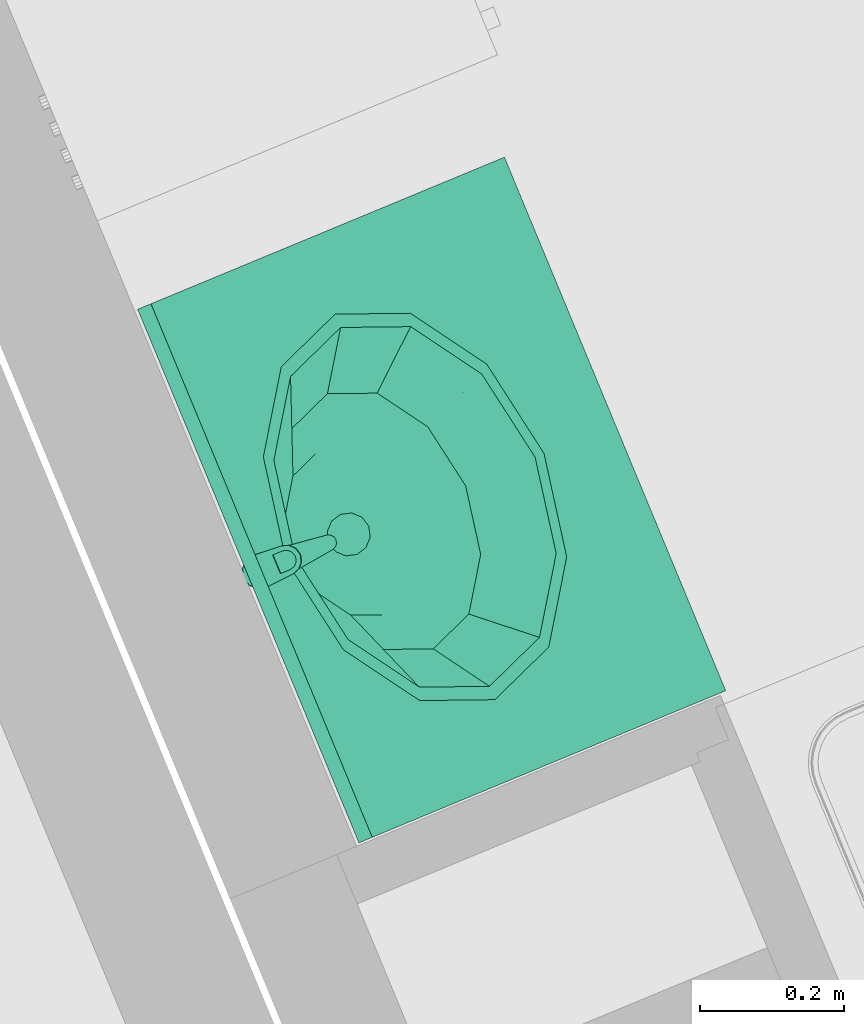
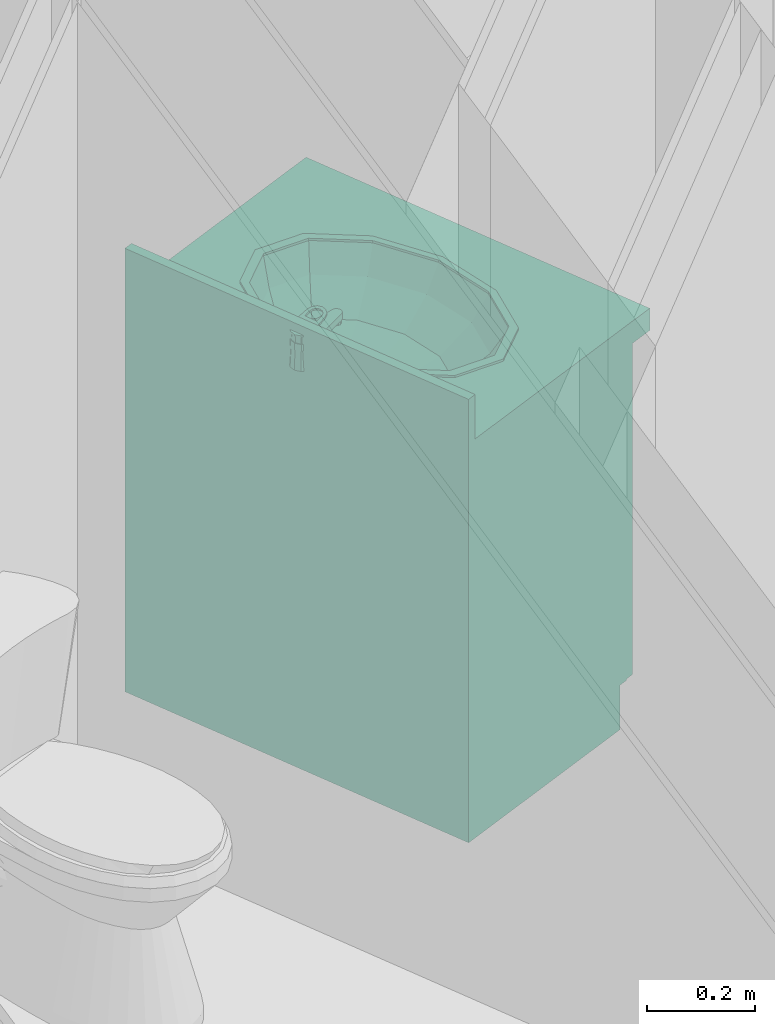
# One storey, part 68 of 91: 1 flow terminal.
"""IFC2X3 building model written with IfcOpenShell, lengths in metres."""

from ifc_helpers import new_model, entity, si_unit, converted_unit, derived_unit, money_unit, direction, frame, origin_with_axes, place, context, subcontext, project, spatial, open_shell, faceted_brep, surface_model, source, transform, mapped, type_object, element, save


model = new_model("IFC2X3")

# Units and contexts
model_context = context("Model", 3, precision=1e-05, world=origin_with_axes(), true_north=direction((0.0, 1.0)))
body_context = subcontext(model_context, "Body", "Model", "MODEL_VIEW")
ifc_project = project(units=[si_unit("LENGTHUNIT", "METRE"), si_unit("AREAUNIT", "SQUARE_METRE"), si_unit("VOLUMEUNIT", "CUBIC_METRE"), converted_unit("PLANEANGLEUNIT", "DEGREE", entity("IfcPlaneAngleMeasure", 0.0174532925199), si_unit("PLANEANGLEUNIT", "RADIAN"), dimensions=[0, 0, 0, 0, 0, 0, 0]), si_unit("SOLIDANGLEUNIT", "STERADIAN"), money_unit("EUR"), converted_unit("TIMEUNIT", "Year", entity("IfcTimeMeasure", 31556926.0), si_unit("TIMEUNIT", "SECOND"), dimensions=[0, 0, 1, 0, 0, 0, 0]), si_unit("MASSUNIT", "GRAM", prefix="KILO"), si_unit("THERMODYNAMICTEMPERATUREUNIT", "DEGREE_CELSIUS"), si_unit("LUMINOUSINTENSITYUNIT", "LUMEN"), si_unit("ENERGYUNIT", "JOULE", prefix="MEGA"), derived_unit("THERMALCONDUCTANCEUNIT", [(si_unit("POWERUNIT", "WATT"), 1), (si_unit("LENGTHUNIT", "METRE"), -1), (si_unit("THERMODYNAMICTEMPERATUREUNIT", "KELVIN"), -1)]), derived_unit("SPECIFICHEATCAPACITYUNIT", [(si_unit("ENERGYUNIT", "JOULE"), 1), (si_unit("MASSUNIT", "GRAM", prefix="KILO"), -1), (si_unit("THERMODYNAMICTEMPERATUREUNIT", "KELVIN"), -1)]), derived_unit("MASSDENSITYUNIT", [(si_unit("MASSUNIT", "GRAM", prefix="KILO"), 1), (si_unit("VOLUMEUNIT", "CUBIC_METRE"), -1)])], contexts=[model_context])

# Site, building, storey
site_placement = place(None, origin_with_axes())
site = spatial("IfcSite", under=ifc_project, at=site_placement, Name="Site", CompositionType="ELEMENT")
building_placement = place(site_placement, origin_with_axes())
building = spatial("IfcBuilding", under=site, at=building_placement, Name="Bâtiment", CompositionType="ELEMENT")
storey_placement = place(building_placement, frame((0.0, 0.0, 5.44), z_axis=(0.0, 0.0, 1.0), x_axis=(1.0, 0.0, 0.0)))
storey = spatial("IfcBuildingStorey", under=building, at=storey_placement, Name="R+2", CompositionType="ELEMENT", Elevation=5.44)

# Flow terminal
sanitary_terminal_type = type_object("IfcSanitaryTerminalType", Name="Lavabo sur meuble 23", PredefinedType="NOTDEFINED")
shared_shape = source(origin_with_axes(), body_context, "Body", "SurfaceModel", [
    faceted_brep([(0.0, 0.09, 0.0), (0.8, 0.09, 0.0), (0.8, 0.09, 0.1), (0.0, 0.09, 0.1), (0.0, 0.55, 0.0), (0.8, 0.55, 0.0), (0.8, 0.55, 0.1), (0.0, 0.55, 0.1)], [[[0, 1, 2, 3]], [[0, 4, 5, 1]], [[1, 5, 6, 2]], [[3, 2, 6, 7]], [[4, 0, 3, 7]], [[5, 4, 7, 6]]]),
    faceted_brep([(0.0, 0.07, 0.1), (0.02, 0.07, 0.1), (0.02, 0.07, 0.12), (0.0, 0.07, 0.12), (0.0, 0.55, 0.1), (0.02, 0.55, 0.1), (0.78, 0.55, 0.1), (0.8, 0.55, 0.1), (0.8, 0.07, 0.1), (0.78, 0.07, 0.1), (0.78, 0.07, 0.12), (0.8, 0.07, 0.12), (0.8, 0.55, 0.12), (0.78, 0.55, 0.12), (0.02, 0.55, 0.12), (0.0, 0.55, 0.12)], [[[0, 1, 2, 3]], [[0, 4, 5, 6, 7, 8, 9, 1]], [[1, 9, 10, 2]], [[3, 2, 10, 11, 12, 13, 14, 15]], [[4, 0, 3, 15]], [[5, 4, 15, 14]], [[6, 5, 14, 13]], [[7, 6, 13, 12]], [[8, 7, 12, 11]], [[9, 8, 11, 10]]]),
    faceted_brep([(0.0, 0.07, 0.12), (0.02, 0.07, 0.12), (0.02, 0.07, 0.85), (0.0, 0.07, 0.85), (0.0, 0.55, 0.12), (0.8, 0.55, 0.12), (0.8, 0.07, 0.12), (0.78, 0.07, 0.12), (0.78, 0.53, 0.12), (0.02, 0.53, 0.12), (0.02, 0.53, 0.85), (0.78, 0.53, 0.85), (0.78, 0.07, 0.85), (0.8, 0.07, 0.85), (0.8, 0.55, 0.85), (0.0, 0.55, 0.85)], [[[0, 1, 2, 3]], [[0, 4, 5, 6, 7, 8, 9, 1]], [[1, 9, 10, 2]], [[3, 2, 10, 11, 12, 13, 14, 15]], [[4, 0, 3, 15]], [[5, 4, 15, 14]], [[6, 5, 14, 13]], [[7, 6, 13, 12]], [[8, 7, 12, 11]], [[9, 8, 11, 10]]]),
    faceted_brep([(0.78, 0.07, 0.323333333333), (0.78, 0.53, 0.323333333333), (0.78, 0.53, 0.343333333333), (0.78, 0.07, 0.343333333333), (0.02, 0.07, 0.323333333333), (0.02, 0.53, 0.323333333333), (0.02, 0.53, 0.343333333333), (0.02, 0.07, 0.343333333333)], [[[0, 1, 2, 3]], [[0, 4, 5, 1]], [[1, 5, 6, 2]], [[3, 2, 6, 7]], [[4, 0, 3, 7]], [[5, 4, 7, 6]]]),
    faceted_brep([(0.78, 0.07, 0.566666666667), (0.78, 0.53, 0.566666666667), (0.78, 0.53, 0.586666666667), (0.78, 0.07, 0.586666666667), (0.02, 0.07, 0.566666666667), (0.02, 0.53, 0.566666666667), (0.02, 0.53, 0.586666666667), (0.02, 0.07, 0.586666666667)], [[[0, 1, 2, 3]], [[0, 4, 5, 1]], [[1, 5, 6, 2]], [[3, 2, 6, 7]], [[4, 0, 3, 7]], [[5, 4, 7, 6]]]),
    faceted_brep([(0.0, 0.55, 0.85), (0.8, 0.55, 0.85), (0.8, 0.0, 0.85), (0.0, 0.0, 0.85), (0.535, 0.144115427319, 0.85), (0.633826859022, 0.21, 0.85), (0.67, 0.3, 0.85), (0.633826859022, 0.39, 0.85), (0.535, 0.455884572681, 0.85), (0.4, 0.48, 0.85), (0.265, 0.455884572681, 0.85), (0.166173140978, 0.39, 0.85), (0.13, 0.3, 0.85), (0.166173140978, 0.21, 0.85), (0.265, 0.144115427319, 0.85), (0.4, 0.12, 0.85), (0.0, 0.55, 0.9), (0.8, 0.55, 0.9), (0.8, 0.0, 0.9), (0.0, 0.0, 0.9), (0.535, 0.144115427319, 0.9), (0.633826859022, 0.21, 0.9), (0.67, 0.3, 0.9), (0.633826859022, 0.39, 0.9), (0.535, 0.455884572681, 0.9), (0.4, 0.48, 0.9), (0.265, 0.455884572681, 0.9), (0.166173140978, 0.39, 0.9), (0.13, 0.3, 0.9), (0.166173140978, 0.21, 0.9), (0.265, 0.144115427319, 0.9), (0.4, 0.12, 0.9)], [[[0, 1, 2, 3], [4, 5, 6, 7, 8, 9, 10, 11, 12, 13, 14, 15]], [[0, 16, 17, 1]], [[1, 17, 18, 2]], [[2, 18, 19, 3]], [[3, 19, 16, 0]], [[20, 21, 5, 4]], [[21, 22, 6, 5]], [[22, 23, 7, 6]], [[23, 24, 8, 7]], [[24, 25, 9, 8]], [[25, 26, 10, 9]], [[26, 27, 11, 10]], [[27, 28, 12, 11]], [[28, 29, 13, 12]], [[29, 30, 14, 13]], [[30, 31, 15, 14]], [[31, 20, 4, 15]], [[18, 17, 16, 19], [24, 23, 22, 21, 20, 31, 30, 29, 28, 27, 26, 25]]]),
    faceted_brep([(0.0, 0.53, 0.9), (0.8, 0.53, 0.9), (0.8, 0.53, 1.0), (0.0, 0.53, 1.0), (0.0, 0.55, 0.9), (0.8, 0.55, 0.9), (0.8, 0.55, 1.0), (0.0, 0.55, 1.0)], [[[0, 1, 2, 3]], [[0, 4, 5, 1]], [[1, 5, 6, 2]], [[3, 2, 6, 7]], [[4, 0, 3, 7]], [[5, 4, 7, 6]]]),
    faceted_brep([(0.689, 0.3, 0.905), (0.689, 0.3, 0.9), (0.650281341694, 0.396691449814, 0.9), (0.650281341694, 0.396691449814, 0.905), (0.650281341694, 0.203308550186, 0.905), (0.650281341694, 0.203308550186, 0.9), (0.5445, 0.132525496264, 0.9), (0.4, 0.106617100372, 0.9), (0.2555, 0.132525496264, 0.9), (0.149718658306, 0.203308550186, 0.9), (0.111, 0.3, 0.9), (0.149718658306, 0.396691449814, 0.9), (0.2555, 0.467474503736, 0.9), (0.4, 0.493382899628, 0.9), (0.5445, 0.467474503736, 0.9), (0.669, 0.3, 0.9), (0.632960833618, 0.39, 0.9), (0.5345, 0.455884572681, 0.9), (0.4, 0.48, 0.9), (0.2655, 0.455884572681, 0.9), (0.167039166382, 0.39, 0.9), (0.131, 0.3, 0.9), (0.167039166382, 0.21, 0.9), (0.2655, 0.144115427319, 0.9), (0.4, 0.12, 0.9), (0.5345, 0.144115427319, 0.9), (0.632960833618, 0.21, 0.9), (0.5445, 0.467474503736, 0.905), (0.4, 0.493382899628, 0.905), (0.2555, 0.467474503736, 0.905), (0.149718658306, 0.396691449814, 0.905), (0.111, 0.3, 0.905), (0.149718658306, 0.203308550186, 0.905), (0.2555, 0.132525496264, 0.905), (0.4, 0.106617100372, 0.905), (0.5445, 0.132525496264, 0.905), (0.669, 0.3, 0.905), (0.632960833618, 0.21, 0.905), (0.5345, 0.144115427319, 0.905), (0.4, 0.12, 0.905), (0.2655, 0.144115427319, 0.905), (0.167039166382, 0.21, 0.905), (0.131, 0.3, 0.905), (0.167039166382, 0.39, 0.905), (0.2655, 0.455884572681, 0.905), (0.4, 0.48, 0.905), (0.5345, 0.455884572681, 0.905), (0.632960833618, 0.39, 0.905)], [[[0, 1, 2, 3]], [[4, 5, 1, 0]], [[1, 5, 6, 7, 8, 9, 10, 11, 12, 13, 14, 2], [15, 16, 17, 18, 19, 20, 21, 22, 23, 24, 25, 26]], [[3, 2, 14, 27]], [[0, 3, 27, 28, 29, 30, 31, 32, 33, 34, 35, 4], [36, 37, 38, 39, 40, 41, 42, 43, 44, 45, 46, 47]], [[35, 6, 5, 4]], [[34, 7, 6, 35]], [[33, 8, 7, 34]], [[32, 9, 8, 33]], [[31, 10, 9, 32]], [[30, 11, 10, 31]], [[29, 12, 11, 30]], [[28, 13, 12, 29]], [[27, 14, 13, 28]], [[47, 16, 15, 36]], [[46, 17, 16, 47]], [[45, 18, 17, 46]], [[44, 19, 18, 45]], [[43, 20, 19, 44]], [[42, 21, 20, 43]], [[41, 22, 21, 42]], [[40, 23, 22, 41]], [[39, 24, 23, 40]], [[38, 25, 24, 39]], [[37, 26, 25, 38]], [[36, 15, 26, 37]]]),
    surface_model("IfcShellBasedSurfaceModel", [(0.4, 0.48, 0.9), (0.4, 0.48, 0.848), (0.52105, 0.458296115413, 0.848), (0.5345, 0.455884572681, 0.9), (0.2655, 0.455884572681, 0.9), (0.27895, 0.458296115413, 0.848), (0.609664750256, 0.399, 0.848), (0.632960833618, 0.39, 0.9), (0.167039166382, 0.39, 0.9), (0.190335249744, 0.399, 0.848), (0.6421, 0.318, 0.848), (0.669, 0.3, 0.9), (0.131, 0.3, 0.9), (0.1579, 0.318, 0.848), (0.609664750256, 0.237, 0.848), (0.632960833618, 0.21, 0.9), (0.167039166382, 0.21, 0.9), (0.190335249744, 0.237, 0.848), (0.52105, 0.177703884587, 0.848), (0.5345, 0.144115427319, 0.9), (0.2655, 0.144115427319, 0.9), (0.27895, 0.177703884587, 0.848), (0.4, 0.156, 0.848), (0.4, 0.12, 0.9)], [open_shell([[[0, 1, 2, 3]], [[4, 5, 1, 0]], [[3, 2, 6, 7]], [[8, 9, 5, 4]], [[7, 6, 10, 11]], [[12, 13, 9, 8]], [[11, 10, 14, 15]], [[16, 17, 13, 12]], [[15, 14, 18, 19]], [[20, 21, 17, 16]], [[19, 18, 22, 23]], [[23, 22, 21, 20]]])]),
    surface_model("IfcShellBasedSurfaceModel", [(0.4, 0.48, 0.848), (0.4, 0.48, 0.796), (0.4956295, 0.462853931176, 0.796), (0.52105, 0.458296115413, 0.848), (0.27895, 0.458296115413, 0.848), (0.3043705, 0.462853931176, 0.796), (0.565635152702, 0.41601, 0.796), (0.609664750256, 0.399, 0.848), (0.190335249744, 0.399, 0.848), (0.234364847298, 0.41601, 0.796), (0.591259, 0.35202, 0.796), (0.6421, 0.318, 0.848), (0.1579, 0.318, 0.848), (0.208741, 0.35202, 0.796), (0.565635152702, 0.28803, 0.796), (0.609664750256, 0.237, 0.848), (0.190335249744, 0.237, 0.848), (0.234364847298, 0.28803, 0.796), (0.4956295, 0.241186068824, 0.796), (0.52105, 0.177703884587, 0.848), (0.27895, 0.177703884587, 0.848), (0.3043705, 0.241186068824, 0.796), (0.4, 0.22404, 0.796), (0.4, 0.156, 0.848)], [open_shell([[[0, 1, 2, 3]], [[4, 5, 1, 0]], [[3, 2, 6, 7]], [[8, 9, 5, 4]], [[7, 6, 10, 11]], [[12, 13, 9, 8]], [[11, 10, 14, 15]], [[16, 17, 13, 12]], [[15, 14, 18, 19]], [[20, 21, 17, 16]], [[19, 18, 22, 23]], [[23, 22, 21, 20]]])]),
    surface_model("IfcShellBasedSurfaceModel", [(0.4, 0.48, 0.796), (0.4, 0.48, 0.77), (0.460246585, 0.469197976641, 0.77), (0.4956295, 0.462853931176, 0.796), (0.3043705, 0.462853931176, 0.796), (0.339753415, 0.469197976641, 0.77), (0.504350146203, 0.4396863, 0.77), (0.565635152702, 0.41601, 0.796), (0.234364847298, 0.41601, 0.796), (0.295649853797, 0.4396863, 0.77), (0.52049317, 0.3993726, 0.77), (0.591259, 0.35202, 0.796), (0.208741, 0.35202, 0.796), (0.27950683, 0.3993726, 0.77), (0.504350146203, 0.3590589, 0.77), (0.565635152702, 0.28803, 0.796), (0.234364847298, 0.28803, 0.796), (0.295649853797, 0.3590589, 0.77), (0.460246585, 0.329547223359, 0.77), (0.4956295, 0.241186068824, 0.796), (0.3043705, 0.241186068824, 0.796), (0.339753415, 0.329547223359, 0.77), (0.4, 0.3187452, 0.77), (0.4, 0.22404, 0.796)], [open_shell([[[0, 1, 2, 3]], [[4, 5, 1, 0]], [[3, 2, 6, 7]], [[8, 9, 5, 4]], [[7, 6, 10, 11]], [[12, 13, 9, 8]], [[11, 10, 14, 15]], [[16, 17, 13, 12]], [[15, 14, 18, 19]], [[20, 21, 17, 16]], [[19, 18, 22, 23]], [[23, 22, 21, 20]]])]),
    surface_model("IfcShellBasedSurfaceModel", [(0.4, 0.48, 0.77), (0.415, 0.425353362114, 0.763), (0.460246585, 0.469197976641, 0.77), (0.4, 0.4293726, 0.763), (0.425980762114, 0.4143726, 0.763), (0.339753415, 0.469197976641, 0.77), (0.504350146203, 0.4396863, 0.77), (0.385, 0.425353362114, 0.763), (0.43, 0.3993726, 0.763), (0.295649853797, 0.4396863, 0.77), (0.52049317, 0.3993726, 0.77), (0.374019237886, 0.4143726, 0.763), (0.425980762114, 0.3843726, 0.763), (0.27950683, 0.3993726, 0.77), (0.504350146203, 0.3590589, 0.77), (0.37, 0.3993726, 0.763), (0.415, 0.373391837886, 0.763), (0.295649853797, 0.3590589, 0.77), (0.460246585, 0.329547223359, 0.77), (0.374019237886, 0.3843726, 0.763), (0.4, 0.3693726, 0.763), (0.339753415, 0.329547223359, 0.77), (0.4, 0.3187452, 0.77), (0.385, 0.373391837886, 0.763)], [open_shell([[[0, 1, 2]], [[0, 3, 1]], [[2, 1, 4]], [[5, 3, 0]], [[2, 4, 6]], [[5, 7, 3]], [[6, 4, 8]], [[9, 7, 5]], [[6, 8, 10]], [[9, 11, 7]], [[10, 8, 12]], [[13, 11, 9]], [[10, 12, 14]], [[13, 15, 11]], [[14, 12, 16]], [[17, 15, 13]], [[14, 16, 18]], [[17, 19, 15]], [[18, 16, 20]], [[21, 19, 17]], [[18, 20, 22]], [[21, 23, 19]], [[22, 20, 23]], [[22, 23, 21]]])]),
    surface_model("IfcShellBasedSurfaceModel", [(0.43, 0.3993726, 0.763), (0.43, 0.3993726, 0.758), (0.425980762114, 0.4143726, 0.758), (0.425980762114, 0.4143726, 0.763), (0.425980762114, 0.3843726, 0.763), (0.425980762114, 0.3843726, 0.758), (0.415, 0.373391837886, 0.758), (0.4, 0.3693726, 0.758), (0.385, 0.373391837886, 0.758), (0.374019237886, 0.3843726, 0.758), (0.37, 0.3993726, 0.758), (0.374019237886, 0.4143726, 0.758), (0.385, 0.425353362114, 0.758), (0.4, 0.4293726, 0.758), (0.415, 0.425353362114, 0.758), (0.415, 0.425353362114, 0.763), (0.415, 0.373391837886, 0.763), (0.4, 0.3693726, 0.763), (0.385, 0.373391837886, 0.763), (0.374019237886, 0.3843726, 0.763), (0.37, 0.3993726, 0.763), (0.374019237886, 0.4143726, 0.763), (0.385, 0.425353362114, 0.763), (0.4, 0.4293726, 0.763)], [open_shell([[[0, 1, 2, 3]], [[4, 5, 1, 0]], [[1, 5, 6, 7, 8, 9, 10, 11, 12, 13, 14, 2]], [[3, 2, 14, 15]], [[16, 6, 5, 4]], [[17, 7, 6, 16]], [[18, 8, 7, 17]], [[19, 9, 8, 18]], [[20, 10, 9, 19]], [[21, 11, 10, 20]], [[22, 12, 11, 21]], [[23, 13, 12, 22]], [[15, 14, 13, 23]]])]),
    faceted_brep([(0.4125, 0.554150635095, 0.9), (0.4, 0.5575, 0.9), (0.4, 0.553701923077, 0.975961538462), (0.410587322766, 0.550837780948, 0.976507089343), (0.421650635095, 0.545, 0.9), (0.425, 0.5325, 0.9), (0.421650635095, 0.52, 0.9), (0.4125, 0.510849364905, 0.9), (0.4, 0.5075, 0.9), (0.3875, 0.510849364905, 0.9), (0.378349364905, 0.52, 0.9), (0.375, 0.5325, 0.9), (0.378349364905, 0.545, 0.9), (0.3875, 0.554150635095, 0.9), (0.389412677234, 0.550837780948, 0.976507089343), (0.381726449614, 0.543050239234, 0.977990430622), (0.379, 0.5325, 0.98), (0.381899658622, 0.522049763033, 0.981990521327), (0.389585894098, 0.514462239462, 0.983435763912), (0.4, 0.511698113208, 0.983962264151), (0.410414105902, 0.514462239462, 0.983435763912), (0.418100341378, 0.522049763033, 0.981990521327), (0.421, 0.5325, 0.98), (0.418273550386, 0.543050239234, 0.977990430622)], [[[0, 1, 2, 3]], [[0, 4, 5, 6, 7, 8, 9, 10, 11, 12, 13, 1]], [[1, 13, 14, 2]], [[3, 2, 14, 15, 16, 17, 18, 19, 20, 21, 22, 23]], [[4, 0, 3, 23]], [[5, 4, 23, 22]], [[6, 5, 22, 21]], [[7, 6, 21, 20]], [[8, 7, 20, 19]], [[9, 8, 19, 18]], [[10, 9, 18, 17]], [[11, 10, 17, 16]], [[12, 11, 16, 15]], [[13, 12, 15, 14]]]),
    faceted_brep([(0.409, 0.4295, 0.935), (0.407794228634, 0.434, 0.935), (0.407794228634, 0.434, 0.945), (0.409, 0.4295, 0.945), (0.407794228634, 0.425, 0.935), (0.4045, 0.421705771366, 0.935), (0.4, 0.4205, 0.935), (0.3955, 0.421705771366, 0.935), (0.392205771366, 0.425, 0.935), (0.391, 0.4295, 0.935), (0.392205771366, 0.434, 0.935), (0.3955, 0.437294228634, 0.935), (0.4, 0.4385, 0.935), (0.4045, 0.437294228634, 0.935), (0.4045, 0.437294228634, 0.945), (0.4, 0.4385, 0.945), (0.3955, 0.437294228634, 0.945), (0.392205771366, 0.434, 0.945), (0.391, 0.4295, 0.945), (0.392205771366, 0.425, 0.945), (0.3955, 0.421705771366, 0.945), (0.4, 0.4205, 0.945), (0.4045, 0.421705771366, 0.945), (0.407794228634, 0.425, 0.945)], [[[0, 1, 2, 3]], [[0, 4, 5, 6, 7, 8, 9, 10, 11, 12, 13, 1]], [[1, 13, 14, 2]], [[3, 2, 14, 15, 16, 17, 18, 19, 20, 21, 22, 23]], [[4, 0, 3, 23]], [[5, 4, 23, 22]], [[6, 5, 22, 21]], [[7, 6, 21, 20]], [[8, 7, 20, 19]], [[9, 8, 19, 18]], [[10, 9, 18, 17]], [[11, 10, 17, 16]], [[12, 11, 16, 15]], [[13, 12, 15, 14]]]),
    faceted_brep([(0.387128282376, 0.552756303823, 0.96), (0.378272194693, 0.54269320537, 0.96), (0.3761946, 0.5294501, 0.96), (0.389088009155, 0.428111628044, 0.96), (0.390971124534, 0.423216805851, 0.96), (0.394906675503, 0.419750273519, 0.96), (0.400000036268, 0.41850003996, 0.96), (0.405093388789, 0.419750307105, 0.96), (0.409028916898, 0.423216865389, 0.96), (0.410912, 0.4281117, 0.96), (0.423805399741, 0.529450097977, 0.96), (0.421727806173, 0.542693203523, 0.96), (0.412871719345, 0.552756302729, 0.96), (0.40000000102, 0.556499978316, 0.96), (0.411, 0.551552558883, 0.96), (0.419052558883, 0.5435, 0.96), (0.422, 0.5325, 0.96), (0.419052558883, 0.5215, 0.96), (0.411, 0.513447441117, 0.96), (0.4, 0.5105, 0.96), (0.389, 0.513447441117, 0.96), (0.380947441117, 0.5215, 0.96), (0.378, 0.5325, 0.96), (0.380947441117, 0.5435, 0.96), (0.389, 0.551552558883, 0.96), (0.4, 0.5545, 0.96), (0.378272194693, 0.54269320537, 0.945), (0.387128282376, 0.552756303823, 0.945), (0.3761946, 0.5294501, 0.945), (0.389088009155, 0.428111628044, 0.945), (0.390971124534, 0.423216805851, 0.945), (0.394906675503, 0.419750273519, 0.945), (0.400000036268, 0.41850003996, 0.945), (0.405093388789, 0.419750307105, 0.945), (0.409028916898, 0.423216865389, 0.945), (0.410912, 0.4281117, 0.945), (0.423805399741, 0.529450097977, 0.945), (0.421727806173, 0.542693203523, 0.945), (0.412871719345, 0.552756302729, 0.945), (0.40000000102, 0.556499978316, 0.945), (0.411375, 0.552202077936, 0.945), (0.419702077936, 0.543875, 0.945), (0.42275, 0.5325, 0.945), (0.419702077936, 0.521125, 0.945), (0.411375, 0.512797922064, 0.945), (0.4, 0.50975, 0.945), (0.388625, 0.512797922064, 0.945), (0.380297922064, 0.521125, 0.945), (0.37725, 0.5325, 0.945), (0.380297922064, 0.543875, 0.945), (0.388625, 0.552202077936, 0.945), (0.4, 0.55525, 0.945)], [[[0, 1, 2, 3, 4, 5, 6, 7, 8, 9, 10, 11, 12, 13], [14, 15, 16, 17, 18, 19, 20, 21, 22, 23, 24, 25]], [[26, 1, 0, 27]], [[28, 2, 1, 26]], [[29, 3, 2, 28]], [[30, 4, 3, 29]], [[31, 5, 4, 30]], [[32, 6, 5, 31]], [[33, 7, 6, 32]], [[34, 8, 7, 33]], [[35, 9, 8, 34]], [[36, 10, 9, 35]], [[37, 11, 10, 36]], [[38, 12, 11, 37]], [[39, 13, 12, 38]], [[27, 0, 13, 39]], [[40, 41, 15, 14]], [[41, 42, 16, 15]], [[42, 43, 17, 16]], [[43, 44, 18, 17]], [[44, 45, 19, 18]], [[20, 19, 45, 46]], [[21, 20, 46, 47]], [[22, 21, 47, 48]], [[23, 22, 48, 49]], [[24, 23, 49, 50]], [[50, 51, 25, 24]], [[51, 40, 14, 25]], [[32, 31, 30, 29, 28, 26, 27, 39, 38, 37, 36, 35, 34, 33], [44, 43, 42, 41, 40, 51, 50, 49, 48, 47, 46, 45]]]),
    faceted_brep([(0.423893, 0.53080743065, 0.980322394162), (0.421296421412, 0.543274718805, 0.977947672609), (0.421296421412, 0.544023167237, 0.981877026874), (0.423893, 0.531555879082, 0.984251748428), (0.420945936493, 0.490663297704, 0.987968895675), (0.417663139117, 0.480985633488, 0.989812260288), (0.410061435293, 0.474036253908, 0.991135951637), (0.399999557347, 0.47151438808, 0.991616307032), (0.389937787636, 0.474036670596, 0.991135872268), (0.382336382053, 0.480986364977, 0.989812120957), (0.379054, 0.490664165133, 0.987968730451), (0.376106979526, 0.530807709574, 0.980322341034), (0.378703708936, 0.543274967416, 0.977947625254), (0.38752831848, 0.552591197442, 0.976173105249), (0.400000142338, 0.556031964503, 0.975517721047), (0.41247192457, 0.552591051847, 0.976173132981), (0.414, 0.506959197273, 0.984864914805), (0.386, 0.506959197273, 0.984864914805), (0.386, 0.492143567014, 0.987686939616), (0.387875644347, 0.485267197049, 0.988996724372), (0.393, 0.480233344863, 0.989955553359), (0.4, 0.478390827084, 0.990306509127), (0.407, 0.480233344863, 0.989955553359), (0.412124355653, 0.485267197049, 0.988996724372), (0.414, 0.492143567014, 0.987686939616), (0.41247192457, 0.553339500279, 0.980102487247), (0.400000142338, 0.556780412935, 0.979447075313), (0.38752831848, 0.553339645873, 0.980102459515), (0.378703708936, 0.544023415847, 0.98187697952), (0.376106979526, 0.531556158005, 0.984251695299), (0.379054, 0.491412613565, 0.991898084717), (0.382336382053, 0.481734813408, 0.993741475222), (0.389937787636, 0.474785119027, 0.995065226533), (0.399999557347, 0.472262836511, 0.995545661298), (0.410061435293, 0.47478470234, 0.995065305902), (0.417663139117, 0.48173408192, 0.993741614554), (0.420945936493, 0.491411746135, 0.991898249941), (0.414, 0.507707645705, 0.988794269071), (0.414, 0.492892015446, 0.991616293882), (0.412124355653, 0.486015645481, 0.992926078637), (0.407, 0.480981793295, 0.993884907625), (0.4, 0.479139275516, 0.994235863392), (0.393, 0.480981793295, 0.993884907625), (0.387875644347, 0.486015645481, 0.992926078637), (0.386, 0.492892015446, 0.991616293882), (0.386, 0.507707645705, 0.988794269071)], [[[0, 1, 2, 3]], [[0, 4, 5, 6, 7, 8, 9, 10, 11, 12, 13, 14, 15, 1], [16, 17, 18, 19, 20, 21, 22, 23, 24]], [[1, 15, 25, 2]], [[3, 2, 25, 26, 27, 28, 29, 30, 31, 32, 33, 34, 35, 36], [37, 38, 39, 40, 41, 42, 43, 44, 45]], [[4, 0, 3, 36]], [[5, 4, 36, 35]], [[6, 5, 35, 34]], [[7, 6, 34, 33]], [[8, 7, 33, 32]], [[9, 8, 32, 31]], [[10, 9, 31, 30]], [[11, 10, 30, 29]], [[12, 11, 29, 28]], [[13, 12, 28, 27]], [[14, 13, 27, 26]], [[15, 14, 26, 25]], [[17, 16, 37, 45]], [[18, 17, 45, 44]], [[19, 18, 44, 43]], [[20, 19, 43, 42]], [[21, 20, 42, 41]], [[22, 21, 41, 40]], [[23, 22, 40, 39]], [[24, 23, 39, 38]], [[16, 24, 38, 37]]]),
    faceted_brep([(0.0015, 0.07, 0.1015), (0.3985, 0.07, 0.1015), (0.3985, 0.05, 0.1015), (0.0015, 0.05, 0.1015), (0.0015, 0.07, 0.8485), (0.3985, 0.07, 0.8485), (0.3985, 0.05, 0.8485), (0.0015, 0.05, 0.8485)], [[[0, 1, 2, 3]], [[0, 4, 5, 1]], [[1, 5, 6, 2]], [[3, 2, 6, 7]], [[4, 0, 3, 7]], [[5, 4, 7, 6]]]),
    faceted_brep([(0.358892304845, 0.05, 0.7855), (0.3545, 0.05, 0.781107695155), (0.3485, 0.05, 0.7795), (0.3425, 0.05, 0.781107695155), (0.338107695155, 0.05, 0.7855), (0.3365, 0.05, 0.7915), (0.338107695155, 0.05, 0.7975), (0.3425, 0.05, 0.801892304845), (0.3485, 0.05, 0.8035), (0.3545, 0.05, 0.801892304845), (0.358892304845, 0.05, 0.7975), (0.3605, 0.05, 0.7915), (0.358892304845, 0.025, 0.7855), (0.3545, 0.025, 0.781107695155), (0.3485, 0.025, 0.7795), (0.3425, 0.025, 0.781107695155), (0.338107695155, 0.025, 0.7855), (0.3365, 0.025, 0.7915), (0.338107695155, 0.025, 0.7975), (0.3425, 0.025, 0.801892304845), (0.3485, 0.025, 0.8035), (0.3545, 0.025, 0.801892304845), (0.358892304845, 0.025, 0.7975), (0.3605, 0.025, 0.7915)], [[[0, 1, 2, 3, 4, 5, 6, 7, 8, 9, 10, 11]], [[1, 0, 12, 13]], [[2, 1, 13, 14]], [[3, 2, 14, 15]], [[4, 3, 15, 16]], [[5, 4, 16, 17]], [[6, 5, 17, 18]], [[7, 6, 18, 19]], [[8, 7, 19, 20]], [[9, 8, 20, 21]], [[10, 9, 21, 22]], [[11, 10, 22, 23]], [[0, 11, 23, 12]], [[12, 23, 22, 21, 20, 19, 18, 17, 16, 15, 14, 13]]]),
    faceted_brep([(0.7985, 0.07, 0.1015), (0.7985, 0.05, 0.1015), (0.4015, 0.05, 0.1015), (0.4015, 0.07, 0.1015), (0.7985, 0.07, 0.8485), (0.7985, 0.05, 0.8485), (0.4015, 0.05, 0.8485), (0.4015, 0.07, 0.8485)], [[[0, 1, 2, 3]], [[4, 5, 1, 0]], [[1, 5, 6, 2]], [[3, 2, 6, 7]], [[0, 3, 7, 4]], [[7, 6, 5, 4]]]),
    faceted_brep([(0.441107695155, 0.05, 0.7855), (0.4395, 0.05, 0.7915), (0.441107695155, 0.05, 0.7975), (0.4455, 0.05, 0.801892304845), (0.4515, 0.05, 0.8035), (0.4575, 0.05, 0.801892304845), (0.461892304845, 0.05, 0.7975), (0.4635, 0.05, 0.7915), (0.461892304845, 0.05, 0.7855), (0.4575, 0.05, 0.781107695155), (0.4515, 0.05, 0.7795), (0.4455, 0.05, 0.781107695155), (0.441107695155, 0.025, 0.7855), (0.4395, 0.025, 0.7915), (0.441107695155, 0.025, 0.7975), (0.4455, 0.025, 0.801892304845), (0.4515, 0.025, 0.8035), (0.4575, 0.025, 0.801892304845), (0.461892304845, 0.025, 0.7975), (0.4635, 0.025, 0.7915), (0.461892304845, 0.025, 0.7855), (0.4575, 0.025, 0.781107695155), (0.4515, 0.025, 0.7795), (0.4455, 0.025, 0.781107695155)], [[[0, 1, 2, 3, 4, 5, 6, 7, 8, 9, 10, 11]], [[0, 12, 13, 1]], [[1, 13, 14, 2]], [[2, 14, 15, 3]], [[3, 15, 16, 4]], [[4, 16, 17, 5]], [[5, 17, 18, 6]], [[6, 18, 19, 7]], [[7, 19, 20, 8]], [[8, 20, 21, 9]], [[9, 21, 22, 10]], [[10, 22, 23, 11]], [[11, 23, 12, 0]], [[12, 23, 22, 21, 20, 19, 18, 17, 16, 15, 14, 13]]]),
])
flow_terminal_placement = place(storey_placement, frame((-22.9003043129, -19.6323297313, 0.0), z_axis=(0.0, 0.0, 1.0), x_axis=(-0.383112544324, 0.923701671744, 0.0)))
element("IfcFlowTerminal", 1, at=flow_terminal_placement, inside=storey, type_object=sanitary_terminal_type, Name="MOB-002", ObjectType="SANITARY_TERMINAL", context=body_context, shape_type="MappedRepresentation", body=[
    mapped(shared_shape, transform((0.0, 0.0, 0.0))),
])

save(model, "model.ifc")
